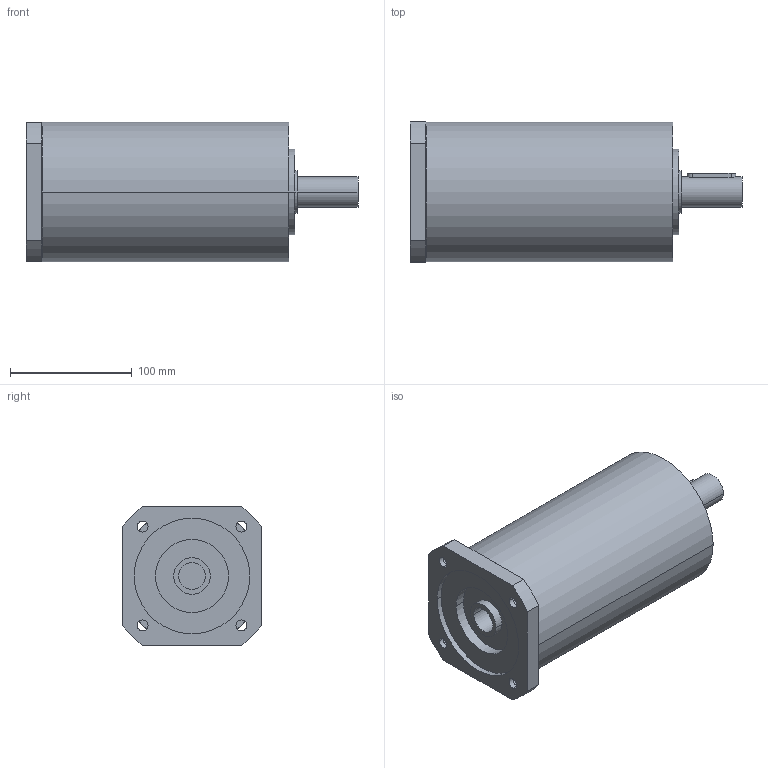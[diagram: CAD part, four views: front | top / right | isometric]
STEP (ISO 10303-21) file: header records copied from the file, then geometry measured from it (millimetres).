
FILE_DESCRIPTION(('CoCreate Modeling STEP Export'),'2;1');
FILE_NAME('GPR125_ig-48-64-80-100-140-196-245-343_25_B14_22_P06.stp','2014-08-26T14:22:06',(''),(''),'CoCreate Modeling STEP processor for AP214 (Solid Model)','CoCreate Modeling 16.00C 25-Feb-2009 (C) Parametric Technology GmbH','');
FILE_SCHEMA(('AUTOMOTIVE_DESIGN { 1 0 10303 214 1 1 1 1 }'));
Length unit declared in the file: millimetre
Products named in the file (2): GPR125_ig-48-64-80-100-140-196-245-343_25_B14_22_P06
Assembly tree (1 placements, depth 2):
  GPR125_ig-48-64-80-100-140-196-245-343_25_B14_22_P06
    GPR125_ig-48-64-80-100-140-196-245-343_25_B14_22_P06
Bounding box: 273 x 115 x 115 mm (x, y, z)
Volume: 2235469.1 mm3; surface area: 122239.1 mm2
Topology: 1 solids, 1 shells, 81 faces, 221 edges, 153 vertices
Faces by surface type: cylinder 48, plane 29, cone 4
Entity records: 2216 total; most frequent: ORIENTED_EDGE 438, CARTESIAN_POINT 406, DIRECTION 300, EDGE_CURVE 219, VERTEX_POINT 153, AXIS2_PLACEMENT_3D 115, EDGE_LOOP 102, FACE_OUTER_BOUND 81
